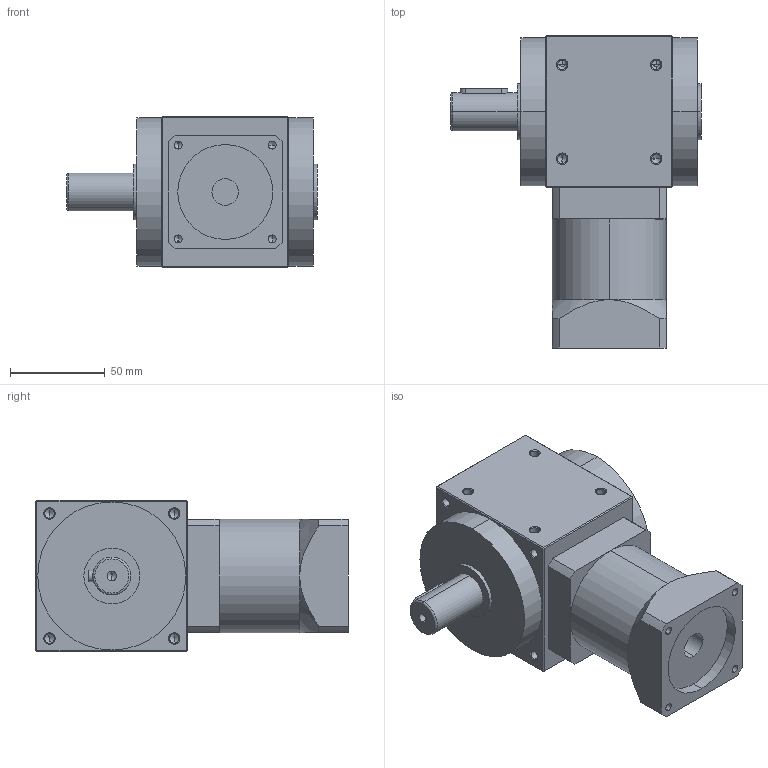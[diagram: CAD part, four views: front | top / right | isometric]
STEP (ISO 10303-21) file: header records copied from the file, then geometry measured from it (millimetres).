
FILE_DESCRIPTION (( 'STEP AP214' ), '1' );
FILE_NAME ('AAW080AS-010-2P-L1(3-10) 14-50-70-M5.STEP', '2020-11-23T05:47:38', ( '微软用户' ), ( '微软中国' ), 'SwSTEP 2.0', 'SolidWorks 2014', '' );
FILE_SCHEMA (( 'AUTOMOTIVE_DESIGN' ));
Length unit declared in the file: millimetre
Products named in the file (2): AAW080AS-010-2P-L1(3-10) 14-50-70-M5
Bounding box: 132 x 164.5 x 80 mm (x, y, z)
Volume: 807891.9 mm3; surface area: 76808.7 mm2
Topology: 2 solids, 2 shells, 236 faces, 539 edges, 299 vertices
Faces by surface type: cone 105, cylinder 78, plane 51, torus 2
Entity records: 9167 total; most frequent: CARTESIAN_POINT 1325, DIRECTION 1161, ORIENTED_EDGE 1010, EDGE_CURVE 505, AXIS2_PLACEMENT_3D 461, VERTEX_POINT 299, EDGE_LOOP 270, UNCERTAINTY_MEASURE_WITH_UNIT 240
